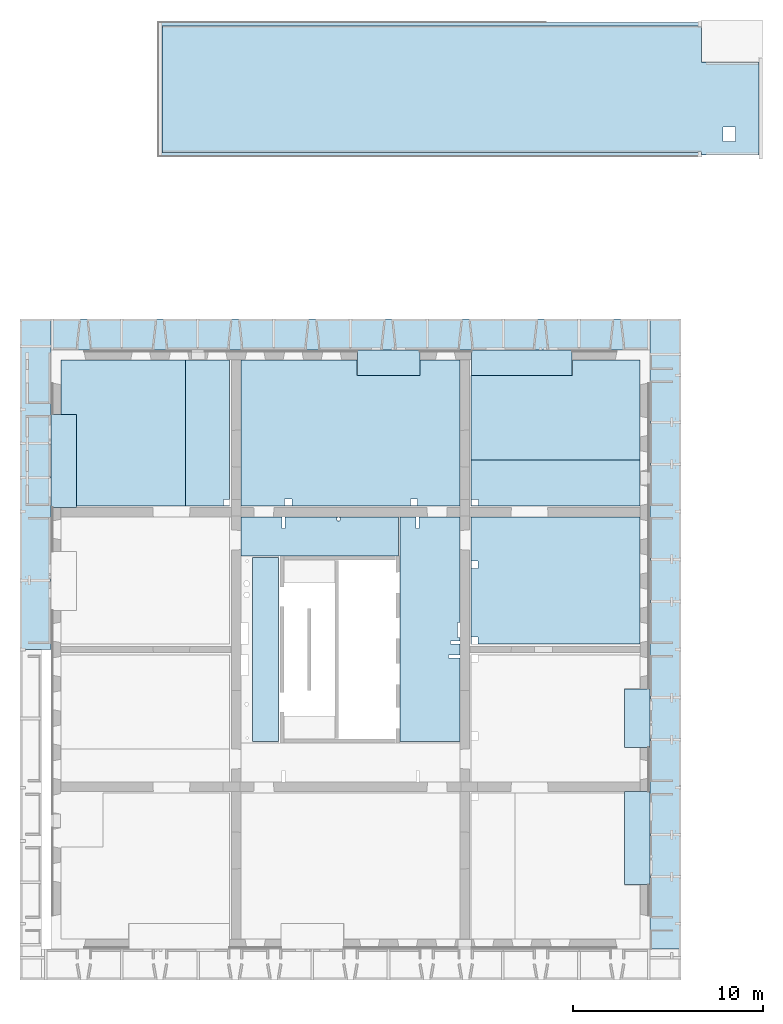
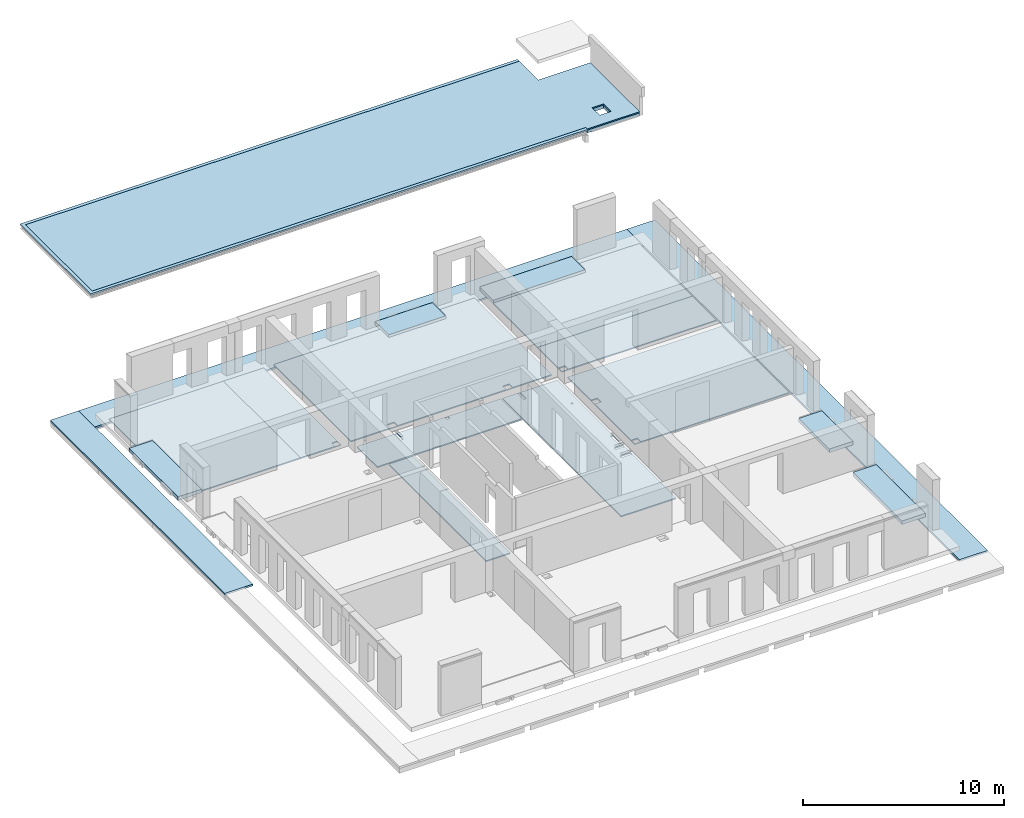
# One storey, part 20 of 27: 20 slabs, 51 openings.
"""IFC2X3 building model written with IfcOpenShell, lengths in millimetres."""

from ifc_helpers import new_model, entity, si_unit, converted_unit, derived_unit, direction, frame, frame_2d, origin, origin_2d_with_axis, place, context, subcontext, project, spatial, polyline, rectangle, circle, outline, extrude, material, layer, layer_set, layer_usage, element, save


model = new_model("IFC2X3")

# Units and contexts
model_context = context("Model", 3, precision=0.01, world=origin(), true_north=direction((6.12303176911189e-17, 1.0)))
body_context = subcontext(model_context, "Body", "Model", "MODEL_VIEW")
ifc_project = project(units=[si_unit("LENGTHUNIT", "METRE", prefix="MILLI"), si_unit("AREAUNIT", "SQUARE_METRE"), si_unit("VOLUMEUNIT", "CUBIC_METRE"), converted_unit("PLANEANGLEUNIT", "DEGREE", entity("IfcRatioMeasure", 0.0174532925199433), si_unit("PLANEANGLEUNIT", "RADIAN"), dimensions=[0, 0, 0, 0, 0, 0, 0]), si_unit("MASSUNIT", "GRAM", prefix="KILO"), derived_unit("MASSDENSITYUNIT", [(si_unit("MASSUNIT", "GRAM", prefix="KILO"), 1), (si_unit("LENGTHUNIT", "METRE"), -3)]), si_unit("TIMEUNIT", "SECOND"), si_unit("FREQUENCYUNIT", "HERTZ"), si_unit("THERMODYNAMICTEMPERATUREUNIT", "DEGREE_CELSIUS"), derived_unit("THERMALTRANSMITTANCEUNIT", [(si_unit("MASSUNIT", "GRAM", prefix="KILO"), 1), (si_unit("THERMODYNAMICTEMPERATUREUNIT", "KELVIN"), -1), (si_unit("TIMEUNIT", "SECOND"), -3)]), derived_unit("VOLUMETRICFLOWRATEUNIT", [(si_unit("LENGTHUNIT", "METRE"), 3), (si_unit("TIMEUNIT", "SECOND"), -1)]), si_unit("ELECTRICCURRENTUNIT", "AMPERE"), si_unit("ELECTRICVOLTAGEUNIT", "VOLT"), si_unit("POWERUNIT", "WATT"), si_unit("FORCEUNIT", "NEWTON", prefix="KILO"), si_unit("ILLUMINANCEUNIT", "LUX"), si_unit("LUMINOUSFLUXUNIT", "LUMEN"), si_unit("LUMINOUSINTENSITYUNIT", "CANDELA"), derived_unit("USERDEFINED", [(si_unit("MASSUNIT", "GRAM", prefix="KILO"), -1), (si_unit("LENGTHUNIT", "METRE"), -2), (si_unit("TIMEUNIT", "SECOND"), 3), (si_unit("LUMINOUSFLUXUNIT", "LUMEN"), 1)]), derived_unit("LINEARVELOCITYUNIT", [(si_unit("LENGTHUNIT", "METRE"), 1), (si_unit("TIMEUNIT", "SECOND"), -1)]), si_unit("PRESSUREUNIT", "PASCAL"), derived_unit("USERDEFINED", [(si_unit("LENGTHUNIT", "METRE"), -2), (si_unit("MASSUNIT", "GRAM", prefix="KILO"), 1), (si_unit("TIMEUNIT", "SECOND"), -2)])], contexts=[model_context])

# Site, building, storey
site_placement = place(None, origin())
site = spatial("IfcSite", under=ifc_project, at=site_placement, Name="Default", CompositionType="ELEMENT")
building_placement = place(site_placement, origin())
building = spatial("IfcBuilding", under=site, at=building_placement, Name="niet gebruiken", CompositionType="ELEMENT")
storey_placement = place(building_placement, frame((0.0, 0.0, 18000.0)))
storey = spatial("IfcBuildingStorey", under=building, at=storey_placement, Name="05 vijfde verdieping", CompositionType="ELEMENT", Elevation=18000.0)

# Slab, opening
ifc_material_1 = material(Name="NLRS_f2_beton ihwg")
ifc_layer_1 = layer(ifc_material_1, 70.0)
ifc_layer_set_1 = layer_set([ifc_layer_1], Name="Floor:NLRS_23.21_FL_druklaag d=70_gen")
ifc_layer_usage_1 = layer_usage(ifc_layer_set_1, "AXIS3", "POSITIVE", 0.0)
slab_1_placement = place(storey_placement, frame((131850.0, 43450.0, -1055.0)))
slab_1 = element("IfcSlab", 1, at=slab_1_placement, inside=storey, material=ifc_layer_usage_1, Name="Floor:NLRS_23.21_FL_druklaag d=70_gen", ObjectType="Floor:NLRS_23.21_FL_druklaag d=70_gen", PredefinedType="FLOOR", context=body_context, shape_type="SweptSolid", body=[
    extrude(outline(polyline([(-12670.0, -3237.49999999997), (15670.0, -3237.49999999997), (15670.0, 3387.49999999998), (-12670.0, 3387.49999999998), (-12670.0, 1512.50000000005), (-15670.0, 1512.50000000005), (-15670.0, -3387.49999999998), (-12670.0, -3387.49999999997), (-12670.0, -3237.49999999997)])), frame((15670.0, 3387.49999999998, 70.0), z_axis=(0.0, 0.0, -1.0), x_axis=(-1.0, 0.0, 0.0)), (0.0, 0.0, 1.0), 69.9999999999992),
])
opening_1_placement = place(slab_1_placement, origin())
element("IfcOpeningElement", 2, at=opening_1_placement, cuts=slab_1, ObjectType="Opening", context=body_context, shape_type="SweptSolid", body=[
    extrude(rectangle(XDim=750.000000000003, YDim=649.999999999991, at=origin_2d_with_axis()), frame((29790.0, 1100.0, -200.0), z_axis=(0.0, 0.0, 1.0), x_axis=(0.0, -1.0, 0.0)), (0.0, 0.0, 1.0), 269.999999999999),
])

ifc_material_2 = material(Name="NLRS_f2_beton prefab")
ifc_layer_2 = layer(ifc_material_2, 200.0)
ifc_layer_set_2 = layer_set([ifc_layer_2], Name="Floor:NLRS_23.21_FL_kanaalplaat d=200_gen")
ifc_layer_usage_2 = layer_usage(ifc_layer_set_2, "AXIS3", "POSITIVE", 0.0)
slab_2_placement = place(storey_placement, frame((131870.0, 43485.0, -1255.0)))
slab_2 = element("IfcSlab", 3, at=slab_2_placement, inside=storey, material=ifc_layer_usage_2, Name="Floor:NLRS_23.21_FL_kanaalplaat d=200_gen", ObjectType="Floor:NLRS_23.21_FL_kanaalplaat d=200_gen", PredefinedType="FLOOR", context=body_context, shape_type="SweptSolid", body=[
    extrude(outline(polyline([(-12660.0, -3225.0), (15660.0, -3225.0), (15660.0, 3360.0), (-12640.0, 3360.0), (-12640.0, 1470.0), (-15660.0, 1470.0), (-15660.0, -3360.0), (-12660.0, -3360.0), (-12660.0, -3225.0)])), frame((15660.0, 3360.0, 200.0), z_axis=(0.0, 0.0, -1.0), x_axis=(-1.0, 0.0, 0.0)), (0.0, 0.0, 1.0), 200.0),
])
opening_2_placement = place(slab_2_placement, origin())
element("IfcOpeningElement", 4, at=opening_2_placement, cuts=slab_2, ObjectType="Opening", context=body_context, shape_type="SweptSolid", body=[
    extrude(rectangle(XDim=750.000000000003, YDim=649.999999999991, at=origin_2d_with_axis()), frame((29770.0, 1065.0, 0.0), z_axis=(0.0, 0.0, 1.0), x_axis=(0.0, -1.0, 0.0)), (0.0, 0.0, 1.0), 269.999999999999),
])

# Slabs
ifc_layer_3 = layer(ifc_material_1, 220.0)
ifc_layer_set_3 = layer_set([ifc_layer_3], Name="Floor:NLRS_23.21_FL_beton ihwg d=220_gen")
ifc_layer_usage_3 = layer_usage(ifc_layer_set_3, "AXIS3", "POSITIVE", 0.0)
slab_3_placement = place(storey_placement, frame((126020.0, 1770.0, -360.0)))
element("IfcSlab", 5, at=slab_3_placement, inside=storey, material=ifc_layer_usage_3, Name="Floor:NLRS_23.21_FL_beton ihwg d=220_gen", ObjectType="Floor:NLRS_23.21_FL_beton ihwg d=220_gen", PredefinedType="FLOOR", context=body_context, shape_type="SweptSolid", body=[
    extrude(rectangle(XDim=4879.99999999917, YDim=1345.00000000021, at=frame_2d((15057.5000000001, 9900.0), x_axis=(0.0, 1.0))), frame((15730.0, 15730.0, 220.0), z_axis=(0.0, 0.0, -1.0), x_axis=(-1.0, 0.0, 0.0)), (0.0, 0.0, 1.0), 220.0),
])
slab_4_placement = place(storey_placement, frame((126020.0, 1770.0, -360.0)))
element("IfcSlab", 6, at=slab_4_placement, inside=storey, material=ifc_layer_usage_3, Name="Floor:NLRS_23.21_FL_beton ihwg d=220_gen:2", ObjectType="Floor:NLRS_23.21_FL_beton ihwg d=220_gen", PredefinedType="FLOOR", context=body_context, shape_type="SweptSolid", body=[
    extrude(rectangle(XDim=3280.0, YDim=1345.00000000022, at=frame_2d((-2000.0, 15057.5000000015), x_axis=(1.0, 0.0))), frame((15730.0, 15730.0, 220.0), z_axis=(0.0, 0.0, -1.0), x_axis=(-1.0, 0.0, 0.0)), (0.0, 0.0, 1.0), 220.0),
])
slab_5_placement = place(storey_placement, frame((126020.0, 1770.0, -360.0)))
element("IfcSlab", 7, at=slab_5_placement, inside=storey, material=ifc_layer_usage_3, Name="Floor:NLRS_23.21_FL_beton ihwg d=220_gen:3", ObjectType="Floor:NLRS_23.21_FL_beton ihwg d=220_gen", PredefinedType="FLOOR", context=body_context, shape_type="SweptSolid", body=[
    extrude(rectangle(XDim=4880.00000000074, YDim=1345.00000000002, at=frame_2d((-15057.5, -9900.0), x_axis=(0.0, -1.0))), frame((15730.0, 15730.0, 220.0), z_axis=(0.0, 0.0, -1.0), x_axis=(-1.0, 0.0, 0.0)), (0.0, 0.0, 1.0), 220.0),
])
slab_6_placement = place(storey_placement, frame((126020.0, 1770.0, -360.0)))
element("IfcSlab", 8, at=slab_6_placement, inside=storey, material=ifc_layer_usage_3, Name="Floor:NLRS_23.21_FL_beton ihwg d=220_gen:4", ObjectType="Floor:NLRS_23.21_FL_beton ihwg d=220_gen", PredefinedType="FLOOR", context=body_context, shape_type="SweptSolid", body=[
    extrude(rectangle(XDim=3080.0, YDim=1345.00000000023, at=frame_2d((-15057.5000000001, -3600.0), x_axis=(0.0, 1.0))), frame((15730.0, 15730.0, 220.0), z_axis=(0.0, 0.0, -1.0), x_axis=(-1.0, 0.0, 0.0)), (0.0, 0.0, 1.0), 220.0),
])
slab_7_placement = place(storey_placement, frame((126020.0, 1770.0, -360.0)))
element("IfcSlab", 9, at=slab_7_placement, inside=storey, material=ifc_layer_usage_3, Name="Floor:NLRS_23.21_FL_beton ihwg d=220_gen:8", ObjectType="Floor:NLRS_23.21_FL_beton ihwg d=220_gen", PredefinedType="FLOOR", context=body_context, shape_type="SweptSolid", body=[
    extrude(rectangle(XDim=5280.00000000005, YDim=1345.00000000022, at=frame_2d((-9000.0, 15057.5000000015), x_axis=(1.0, 0.0))), frame((15730.0, 15730.0, 220.0), z_axis=(0.0, 0.0, -1.0), x_axis=(-1.0, 0.0, 0.0)), (0.0, 0.0, 1.0), 220.0),
])
ifc_layer_4 = layer(ifc_material_1, 85.0)
ifc_layer_set_4 = layer_set([ifc_layer_4], Name="Floor:NLRS_23.21_FL_druklaag d=85_gen")
ifc_layer_usage_4 = layer_usage(ifc_layer_set_4, "AXIS3", "POSITIVE", 0.0)
slab_8_placement = place(storey_placement, origin())
element("IfcSlab", 10, at=slab_8_placement, inside=storey, material=ifc_layer_usage_4, Name="Floor:NLRS_23.21_FL_druklaag d=85_gen", ObjectType="Floor:NLRS_23.21_FL_druklaag d=85_gen", PredefinedType="FLOOR", context=body_context, shape_type="SweptSolid", body=[
    extrude(outline(polyline([(-3507.49999999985, -14316.2499999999), (3507.5000000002, -14316.2499999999), (3507.5000000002, 14218.7499999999), (3312.49999999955, 14218.7499999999), (3312.49999999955, -14121.2499999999), (-3312.4999999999, -14121.2499999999), (-3312.4999999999, 14218.7499999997), (-3507.49999999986, 14218.7499999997), (-3507.49999999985, -14316.2499999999)])), frame((145971.25, 46912.4999999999, -985.0), z_axis=(0.0, 0.0, -1.0), x_axis=(0.0, 1.0, 0.0)), (0.0, 0.0, 1.0), 85.0000000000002),
])

# Slab, openings
ifc_layer_5 = layer(ifc_material_2, 70.0)
ifc_layer_set_5 = layer_set([ifc_layer_5], Name="Floor:NLRS_23.21_FL_breedplaat d=70_gen")
ifc_layer_usage_5 = layer_usage(ifc_layer_set_5, "AXIS3", "POSITIVE", 0.0)
slab_9_placement = place(storey_placement, frame((133100.0, 25040.0, -360.0)))
slab_9 = element("IfcSlab", 11, at=slab_9_placement, inside=storey, material=ifc_layer_usage_5, Name="Floor:NLRS_23.21_FL_breedplaat d=70_gen", ObjectType="Floor:NLRS_23.21_FL_breedplaat d=70_gen", PredefinedType="FLOOR", context=body_context, shape_type="SweptSolid", body=[
    extrude(rectangle(XDim=7670.00000000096, YDim=2309.99999999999, at=frame_2d((10775.0, 0.0), x_axis=(0.0, 1.0))), frame((11930.0, 3835.0, 70.0), z_axis=(0.0, 0.0, -1.0), x_axis=(-1.0, 0.0, 0.0)), (0.0, 0.0, 1.0), 69.9999999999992),
])
placement_1 = place(slab_9_placement, origin())
element("IfcOpeningElement", 12, at=placement_1, cuts=slab_9, ObjectType="Opening", context=body_context, shape_type="SweptSolid", body=[
    extrude(rectangle(XDim=399.999999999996, YDim=340.000000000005, at=origin_2d_with_axis()), frame((5375.0, 180.0, 0.0), z_axis=(0.0, 0.0, 1.0), x_axis=(-1.0, 0.0, 0.0)), (0.0, 0.0, 1.0), 269.999999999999),
])
placement_2 = place(slab_9_placement, origin())
element("IfcOpeningElement", 13, at=placement_2, cuts=slab_9, ObjectType="Opening", context=body_context, shape_type="SweptSolid", body=[
    extrude(rectangle(XDim=309.999999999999, YDim=320.000000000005, at=origin_2d_with_axis()), frame((2145.0, 170.0, 0.0), z_axis=(0.0, 0.0, 1.0), x_axis=(-1.0, 0.0, 0.0)), (0.0, 0.0, 1.0), 269.999999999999),
])
placement_3 = place(slab_9_placement, origin())
element("IfcOpeningElement", 14, at=placement_3, cuts=slab_9, ObjectType="Opening", context=body_context, shape_type="SweptSolid", body=[
    extrude(rectangle(XDim=370.000000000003, YDim=340.000000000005, at=origin_2d_with_axis()), frame((11990.0, 180.0, 0.0), z_axis=(0.0, 0.0, 1.0), x_axis=(-1.0, 0.0, 0.0)), (0.0, 0.0, 1.0), 269.999999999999),
])

slab_10_placement = place(storey_placement, frame((133100.0, 25040.0, -360.0)))
slab_10 = element("IfcSlab", 15, at=slab_10_placement, inside=storey, material=ifc_layer_usage_5, Name="Floor:NLRS_23.21_FL_breedplaat d=70_gen:2", ObjectType="Floor:NLRS_23.21_FL_breedplaat d=70_gen", PredefinedType="FLOOR", context=body_context, shape_type="SweptSolid", body=[
    extrude(outline(polyline([(-8370.0, 3835.0), (-11930.0, 3835.0), (-11930.0, -1435.0), (-3060.0, -1435.0), (-3060.0, 3000.0), (-8370.0, 3000.0), (-8370.0, 3835.0)])), frame((11930.0, 3835.0, 70.0), z_axis=(0.0, 0.0, -1.0), x_axis=(-1.0, 0.0, 0.0)), (0.0, 0.0, 1.0), 69.9999999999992),
])
element("IfcOpeningElement", 16, at=placement_1, cuts=slab_10, ObjectType="Opening", context=body_context, shape_type="SweptSolid", body=[
    extrude(rectangle(XDim=399.999999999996, YDim=340.000000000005, at=origin_2d_with_axis()), frame((5375.0, 180.0, 0.0), z_axis=(0.0, 0.0, 1.0), x_axis=(-1.0, 0.0, 0.0)), (0.0, 0.0, 1.0), 269.999999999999),
])
element("IfcOpeningElement", 17, at=placement_2, cuts=slab_10, ObjectType="Opening", context=body_context, shape_type="SweptSolid", body=[
    extrude(rectangle(XDim=309.999999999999, YDim=320.000000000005, at=origin_2d_with_axis()), frame((2145.0, 170.0, 0.0), z_axis=(0.0, 0.0, 1.0), x_axis=(-1.0, 0.0, 0.0)), (0.0, 0.0, 1.0), 269.999999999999),
])
element("IfcOpeningElement", 18, at=placement_3, cuts=slab_10, ObjectType="Opening", context=body_context, shape_type="SweptSolid", body=[
    extrude(rectangle(XDim=370.000000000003, YDim=340.000000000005, at=origin_2d_with_axis()), frame((11990.0, 180.0, 0.0), z_axis=(0.0, 0.0, 1.0), x_axis=(-1.0, 0.0, 0.0)), (0.0, 0.0, 1.0), 269.999999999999),
])

slab_11_placement = place(storey_placement, frame((133100.0, 25040.0, -360.0)))
slab_11 = element("IfcSlab", 19, at=slab_11_placement, inside=storey, material=ifc_layer_usage_5, Name="Floor:NLRS_23.21_FL_breedplaat d=70_gen:3", ObjectType="Floor:NLRS_23.21_FL_breedplaat d=70_gen", PredefinedType="FLOOR", context=body_context, shape_type="SweptSolid", body=[
    extrude(outline(polyline([(-2480.0, -3835.0), (9040.0, -3835.0), (9040.0, 3835.0), (2930.0, 3835.0), (2930.0, 3000.0), (-370.0, 3000.0), (-370.0, 3835.0), (-2480.0, 3835.0), (-2480.0, -3835.0)])), frame((11930.0, 3835.0, 70.0), z_axis=(0.0, 0.0, -1.0), x_axis=(-1.0, 0.0, 0.0)), (0.0, 0.0, 1.0), 69.9999999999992),
])
element("IfcOpeningElement", 20, at=placement_1, cuts=slab_11, ObjectType="Opening", context=body_context, shape_type="SweptSolid", body=[
    extrude(rectangle(XDim=399.999999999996, YDim=340.000000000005, at=origin_2d_with_axis()), frame((5375.0, 180.0, 0.0), z_axis=(0.0, 0.0, 1.0), x_axis=(-1.0, 0.0, 0.0)), (0.0, 0.0, 1.0), 269.999999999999),
])
element("IfcOpeningElement", 21, at=placement_2, cuts=slab_11, ObjectType="Opening", context=body_context, shape_type="SweptSolid", body=[
    extrude(rectangle(XDim=309.999999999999, YDim=320.000000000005, at=origin_2d_with_axis()), frame((2145.0, 170.0, 0.0), z_axis=(0.0, 0.0, 1.0), x_axis=(-1.0, 0.0, 0.0)), (0.0, 0.0, 1.0), 269.999999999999),
])
element("IfcOpeningElement", 22, at=placement_3, cuts=slab_11, ObjectType="Opening", context=body_context, shape_type="SweptSolid", body=[
    extrude(rectangle(XDim=370.000000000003, YDim=340.000000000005, at=origin_2d_with_axis()), frame((11990.0, 180.0, 0.0), z_axis=(0.0, 0.0, 1.0), x_axis=(-1.0, 0.0, 0.0)), (0.0, 0.0, 1.0), 269.999999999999),
])

ifc_layer_usage_6 = layer_usage(ifc_layer_set_5, "AXIS3", "POSITIVE", 0.0)
slab_12_placement = place(storey_placement, frame((148090.0, 2290.0, -360.0)))
slab_12 = element("IfcSlab", 23, at=slab_12_placement, inside=storey, material=ifc_layer_usage_6, Name="Floor:NLRS_23.21_FL_breedplaat d=70_gen", ObjectType="Floor:NLRS_23.21_FL_breedplaat d=70_gen", PredefinedType="FLOOR", context=body_context, shape_type="SweptSolid", body=[
    extrude(rectangle(XDim=8869.99999999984, YDim=2400.0000000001, at=frame_2d((0.0, 11375.0), x_axis=(-1.0, 0.0))), frame((4435.0, 12575.0, 70.0), z_axis=(0.0, 0.0, -1.0), x_axis=(-1.0, 0.0, 0.0)), (0.0, 0.0, 1.0), 69.9999999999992),
])
placement_4 = place(slab_12_placement, origin())
element("IfcOpeningElement", 24, at=placement_4, cuts=slab_12, ObjectType="Opening", context=body_context, shape_type="SweptSolid", body=[
    extrude(rectangle(XDim=430.000000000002, YDim=350.000000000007, at=origin_2d_with_axis()), frame((185.0, 10660.0, 0.0), z_axis=(0.0, 0.0, 1.0), x_axis=(0.0, -1.0, 0.0)), (0.0, 0.0, 1.0), 269.999999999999),
])
placement_5 = place(slab_12_placement, origin())
element("IfcOpeningElement", 25, at=placement_5, cuts=slab_12, ObjectType="Opening", context=body_context, shape_type="SweptSolid", body=[
    extrude(rectangle(XDim=350.000000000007, YDim=350.000000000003, at=origin_2d_with_axis()), frame((185.0, 14735.0, 0.0), z_axis=(0.0, 0.0, 1.0), x_axis=(-1.0, 0.0, 0.0)), (0.0, 0.0, 1.0), 269.999999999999),
])
placement_6 = place(slab_12_placement, origin())
element("IfcOpeningElement", 26, at=placement_6, cuts=slab_12, ObjectType="Opening", context=body_context, shape_type="SweptSolid", body=[
    extrude(rectangle(XDim=350.000000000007, YDim=350.000000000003, at=origin_2d_with_axis()), frame((185.0, 15685.0, 0.0), z_axis=(0.0, 0.0, 1.0), x_axis=(-1.0, 0.0, 0.0)), (0.0, 0.0, 1.0), 269.999999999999),
])
placement_7 = place(slab_12_placement, origin())
element("IfcOpeningElement", 27, at=placement_7, cuts=slab_12, ObjectType="Opening", context=body_context, shape_type="SweptSolid", body=[
    extrude(rectangle(XDim=380.0, YDim=350.000000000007, at=origin_2d_with_axis()), frame((185.0, 19665.0, 0.0), z_axis=(0.0, 0.0, 1.0), x_axis=(0.0, 1.0, 0.0)), (0.0, 0.0, 1.0), 269.999999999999),
])
placement_8 = place(slab_12_placement, origin())
element("IfcOpeningElement", 28, at=placement_8, cuts=slab_12, ObjectType="Opening", context=body_context, shape_type="SweptSolid", body=[
    extrude(rectangle(XDim=360.000000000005, YDim=320.000000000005, at=origin_2d_with_axis()), frame((190.0, 22920.0, 0.0), z_axis=(0.0, 0.0, 1.0), x_axis=(-1.0, 0.0, 0.0)), (0.0, 0.0, 1.0), 269.999999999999),
])

slab_13_placement = place(storey_placement, frame((148090.0, 2290.0, -360.0)))
slab_13 = element("IfcSlab", 29, at=slab_13_placement, inside=storey, material=ifc_layer_usage_6, Name="Floor:NLRS_23.21_FL_breedplaat d=70_gen:4", ObjectType="Floor:NLRS_23.21_FL_breedplaat d=70_gen", PredefinedType="FLOOR", context=body_context, shape_type="SweptSolid", body=[
    extrude(rectangle(XDim=8869.99999999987, YDim=6669.99999999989, at=frame_2d((0.0, 6260.0), x_axis=(1.0, 0.0))), frame((4435.0, 12575.0, 70.0), z_axis=(0.0, 0.0, -1.0), x_axis=(-1.0, 0.0, 0.0)), (0.0, 0.0, 1.0), 69.9999999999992),
])
element("IfcOpeningElement", 30, at=placement_4, cuts=slab_13, ObjectType="Opening", context=body_context, shape_type="SweptSolid", body=[
    extrude(rectangle(XDim=430.000000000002, YDim=350.000000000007, at=origin_2d_with_axis()), frame((185.0, 10660.0, 0.0), z_axis=(0.0, 0.0, 1.0), x_axis=(0.0, -1.0, 0.0)), (0.0, 0.0, 1.0), 269.999999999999),
])
element("IfcOpeningElement", 31, at=placement_5, cuts=slab_13, ObjectType="Opening", context=body_context, shape_type="SweptSolid", body=[
    extrude(rectangle(XDim=350.000000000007, YDim=350.000000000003, at=origin_2d_with_axis()), frame((185.0, 14735.0, 0.0), z_axis=(0.0, 0.0, 1.0), x_axis=(-1.0, 0.0, 0.0)), (0.0, 0.0, 1.0), 269.999999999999),
])
element("IfcOpeningElement", 32, at=placement_6, cuts=slab_13, ObjectType="Opening", context=body_context, shape_type="SweptSolid", body=[
    extrude(rectangle(XDim=350.000000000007, YDim=350.000000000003, at=origin_2d_with_axis()), frame((185.0, 15685.0, 0.0), z_axis=(0.0, 0.0, 1.0), x_axis=(-1.0, 0.0, 0.0)), (0.0, 0.0, 1.0), 269.999999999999),
])
element("IfcOpeningElement", 33, at=placement_7, cuts=slab_13, ObjectType="Opening", context=body_context, shape_type="SweptSolid", body=[
    extrude(rectangle(XDim=380.0, YDim=350.000000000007, at=origin_2d_with_axis()), frame((185.0, 19665.0, 0.0), z_axis=(0.0, 0.0, 1.0), x_axis=(0.0, 1.0, 0.0)), (0.0, 0.0, 1.0), 269.999999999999),
])
element("IfcOpeningElement", 34, at=placement_8, cuts=slab_13, ObjectType="Opening", context=body_context, shape_type="SweptSolid", body=[
    extrude(rectangle(XDim=360.000000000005, YDim=320.000000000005, at=origin_2d_with_axis()), frame((190.0, 22920.0, 0.0), z_axis=(0.0, 0.0, 1.0), x_axis=(-1.0, 0.0, 0.0)), (0.0, 0.0, 1.0), 269.999999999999),
])

# Slab
ifc_layer_usage_7 = layer_usage(ifc_layer_set_5, "AXIS3", "POSITIVE", 0.0)
slab_14_placement = place(storey_placement, frame((126540.0, 12266.0, -360.0)))
element("IfcSlab", 35, at=slab_14_placement, inside=storey, material=ifc_layer_usage_7, Name="Floor:NLRS_23.21_FL_breedplaat d=70_gen", ObjectType="Floor:NLRS_23.21_FL_breedplaat d=70_gen", PredefinedType="FLOOR", context=body_context, shape_type="SweptSolid", body=[
    extrude(outline(polyline([(4435.0, 7362.0), (4435.0, 10222.0), (-2125.0, 10222.0), (-2125.0, 2552.0), (3600.0, 2552.0), (3600.0, 7362.0), (4435.0, 7362.0)])), frame((4435.0, 10222.0, 70.0), z_axis=(0.0, 0.0, -1.0), x_axis=(-1.0, 0.0, 0.0)), (0.0, 0.0, 1.0), 69.9999999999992),
])

# Slab, openings
ifc_layer_usage_8 = layer_usage(ifc_layer_set_5, "AXIS3", "POSITIVE", 0.0)
slab_15_placement = place(storey_placement, frame((135990.0, 10540.0, -330.0)))
slab_15 = element("IfcSlab", 36, at=slab_15_placement, inside=storey, material=ifc_layer_usage_8, Name="Floor:NLRS_23.21_FL_breedplaat d=70_gen", ObjectType="Floor:NLRS_23.21_FL_breedplaat d=70_gen", PredefinedType="FLOOR", context=body_context, shape_type="SweptSolid", body=[
    extrude(rectangle(XDim=9680.00000000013, YDim=1379.99999999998, at=frame_2d((4460.0, 0.0), x_axis=(0.0, 1.0))), frame((5760.0, 6960.0, 70.0), z_axis=(0.0, 0.0, -1.0), x_axis=(-1.0, 0.0, 0.0)), (0.0, 0.0, 1.0), 69.9999999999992),
])
placement_9 = place(slab_15_placement, origin())
element("IfcOpeningElement", 37, at=placement_9, cuts=slab_15, ObjectType="Opening", context=body_context, shape_type="SweptSolid", body=[
    extrude(rectangle(XDim=800.000000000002, YDim=140.000000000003, at=origin_2d_with_axis()), frame((11440.0, 7985.0, 0.0), z_axis=(0.0, 0.0, 1.0), x_axis=(0.0, -1.0, 0.0)), (0.0, 0.0, 1.0), 240.0),
])
placement_10 = place(slab_15_placement, origin())
element("IfcOpeningElement", 38, at=placement_10, cuts=slab_15, ObjectType="Opening", context=body_context, shape_type="SweptSolid", body=[
    extrude(rectangle(XDim=1100.0, YDim=400.000000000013, at=origin_2d_with_axis()), frame((210.0, 7810.0, 0.0), z_axis=(0.0, 0.0, 1.0), x_axis=(0.0, -1.0, 0.0)), (0.0, 0.0, 1.0), 240.0),
])
placement_11 = place(slab_15_placement, origin())
element("IfcOpeningElement", 39, at=placement_11, cuts=slab_15, ObjectType="Opening", context=body_context, shape_type="SweptSolid", body=[
    extrude(rectangle(XDim=1060.0, YDim=400.000000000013, at=origin_2d_with_axis()), frame((210.0, 6130.0, 0.0), z_axis=(0.0, 0.0, 1.0), x_axis=(0.0, -1.0, 0.0)), (0.0, 0.0, 1.0), 240.0),
])
placement_12 = place(slab_15_placement, origin())
element("IfcOpeningElement", 40, at=placement_12, cuts=slab_15, ObjectType="Opening", context=body_context, shape_type="SweptSolid", body=[
    extrude(rectangle(XDim=150.000000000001, YDim=590.000000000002, at=origin_2d_with_axis()), frame((2235.0, 305.0, 0.0)), (0.0, 0.0, 1.0), 240.0),
])
placement_13 = place(slab_15_placement, origin())
element("IfcOpeningElement", 41, at=placement_13, cuts=slab_15, ObjectType="Opening", context=body_context, shape_type="SweptSolid", body=[
    extrude(rectangle(XDim=145.000000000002, YDim=595.000000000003, at=origin_2d_with_axis()), frame((9287.50000000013, 307.499999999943, 0.0)), (0.0, 0.0, 1.0), 240.0),
])
placement_14 = place(slab_15_placement, origin())
element("IfcOpeningElement", 42, at=placement_14, cuts=slab_15, ObjectType="Opening", context=body_context, shape_type="SweptSolid", body=[
    extrude(rectangle(XDim=600.000000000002, YDim=155.000000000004, at=origin_2d_with_axis()), frame((11210.0, 6582.49999999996, 0.0)), (0.0, 0.0, 1.0), 240.0),
])
placement_15 = place(slab_15_placement, origin())
element("IfcOpeningElement", 43, at=placement_15, cuts=slab_15, ObjectType="Opening", context=body_context, shape_type="SweptSolid", body=[
    extrude(rectangle(XDim=490.00000000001, YDim=150.000000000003, at=origin_2d_with_axis()), frame((11265.0, 7335.0, 0.0)), (0.0, 0.0, 1.0), 240.0),
])
placement_16 = place(slab_15_placement, origin())
element("IfcOpeningElement", 44, at=placement_16, cuts=slab_15, ObjectType="Opening", context=body_context, shape_type="SweptSolid", body=[
    extrude(rectangle(XDim=150.000000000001, YDim=600.000000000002, at=origin_2d_with_axis()), frame((9285.02189507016, 13610.0, 0.0)), (0.0, 0.0, 1.0), 240.0),
])
placement_17 = place(slab_15_placement, origin())
element("IfcOpeningElement", 45, at=placement_17, cuts=slab_15, ObjectType="Opening", context=body_context, shape_type="SweptSolid", body=[
    extrude(circle(Radius=100.0, at=origin_2d_with_axis()), frame((5134.86122070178, 13809.9503906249, 0.0), z_axis=(0.0, 0.0, 1.0), x_axis=(-1.0, 0.0, 0.0)), (0.0, 0.0, 1.0), 240.0),
])
placement_18 = place(slab_15_placement, origin())
element("IfcOpeningElement", 46, at=placement_18, cuts=slab_15, ObjectType="Opening", context=body_context, shape_type="SweptSolid", body=[
    extrude(rectangle(XDim=150.000000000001, YDim=600.000000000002, at=origin_2d_with_axis()), frame((2235.0, 13609.9995381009, 0.0)), (0.0, 0.0, 1.0), 240.0),
])

slab_16_placement = place(storey_placement, frame((135990.0, 10540.0, -330.0)))
slab_16 = element("IfcSlab", 47, at=slab_16_placement, inside=storey, material=ifc_layer_usage_8, Name="Floor:NLRS_23.21_FL_breedplaat d=70_gen:3", ObjectType="Floor:NLRS_23.21_FL_breedplaat d=70_gen", PredefinedType="FLOOR", context=body_context, shape_type="SweptSolid", body=[
    extrude(rectangle(XDim=11800.0, YDim=3160.00000000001, at=frame_2d((-4180.0, 1060.0), x_axis=(0.0, -1.0))), frame((5760.0, 6960.0, 70.0), z_axis=(0.0, 0.0, -1.0), x_axis=(-1.0, 0.0, 0.0)), (0.0, 0.0, 1.0), 69.9999999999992),
])
element("IfcOpeningElement", 48, at=placement_9, cuts=slab_16, ObjectType="Opening", context=body_context, shape_type="SweptSolid", body=[
    extrude(rectangle(XDim=800.000000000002, YDim=140.000000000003, at=origin_2d_with_axis()), frame((11440.0, 7985.0, 0.0), z_axis=(0.0, 0.0, 1.0), x_axis=(0.0, -1.0, 0.0)), (0.0, 0.0, 1.0), 240.0),
])
element("IfcOpeningElement", 49, at=placement_10, cuts=slab_16, ObjectType="Opening", context=body_context, shape_type="SweptSolid", body=[
    extrude(rectangle(XDim=1100.0, YDim=400.000000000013, at=origin_2d_with_axis()), frame((210.0, 7810.0, 0.0), z_axis=(0.0, 0.0, 1.0), x_axis=(0.0, -1.0, 0.0)), (0.0, 0.0, 1.0), 240.0),
])
element("IfcOpeningElement", 50, at=placement_11, cuts=slab_16, ObjectType="Opening", context=body_context, shape_type="SweptSolid", body=[
    extrude(rectangle(XDim=1060.0, YDim=400.000000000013, at=origin_2d_with_axis()), frame((210.0, 6130.0, 0.0), z_axis=(0.0, 0.0, 1.0), x_axis=(0.0, -1.0, 0.0)), (0.0, 0.0, 1.0), 240.0),
])
element("IfcOpeningElement", 51, at=placement_12, cuts=slab_16, ObjectType="Opening", context=body_context, shape_type="SweptSolid", body=[
    extrude(rectangle(XDim=150.000000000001, YDim=590.000000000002, at=origin_2d_with_axis()), frame((2235.0, 305.0, 0.0)), (0.0, 0.0, 1.0), 240.0),
])
element("IfcOpeningElement", 52, at=placement_13, cuts=slab_16, ObjectType="Opening", context=body_context, shape_type="SweptSolid", body=[
    extrude(rectangle(XDim=145.000000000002, YDim=595.000000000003, at=origin_2d_with_axis()), frame((9287.50000000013, 307.499999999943, 0.0)), (0.0, 0.0, 1.0), 240.0),
])
element("IfcOpeningElement", 53, at=placement_14, cuts=slab_16, ObjectType="Opening", context=body_context, shape_type="SweptSolid", body=[
    extrude(rectangle(XDim=600.000000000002, YDim=155.000000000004, at=origin_2d_with_axis()), frame((11210.0, 6582.49999999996, 0.0)), (0.0, 0.0, 1.0), 240.0),
])
element("IfcOpeningElement", 54, at=placement_15, cuts=slab_16, ObjectType="Opening", context=body_context, shape_type="SweptSolid", body=[
    extrude(rectangle(XDim=490.00000000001, YDim=150.000000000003, at=origin_2d_with_axis()), frame((11265.0, 7335.0, 0.0)), (0.0, 0.0, 1.0), 240.0),
])
element("IfcOpeningElement", 55, at=placement_16, cuts=slab_16, ObjectType="Opening", context=body_context, shape_type="SweptSolid", body=[
    extrude(rectangle(XDim=150.000000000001, YDim=600.000000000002, at=origin_2d_with_axis()), frame((9285.02189507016, 13610.0, 0.0)), (0.0, 0.0, 1.0), 240.0),
])
element("IfcOpeningElement", 56, at=placement_17, cuts=slab_16, ObjectType="Opening", context=body_context, shape_type="SweptSolid", body=[
    extrude(circle(Radius=100.0, at=origin_2d_with_axis()), frame((5134.86122070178, 13809.9503906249, 0.0), z_axis=(0.0, 0.0, 1.0), x_axis=(-1.0, 0.0, 0.0)), (0.0, 0.0, 1.0), 240.0),
])
element("IfcOpeningElement", 57, at=placement_18, cuts=slab_16, ObjectType="Opening", context=body_context, shape_type="SweptSolid", body=[
    extrude(rectangle(XDim=150.000000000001, YDim=600.000000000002, at=origin_2d_with_axis()), frame((2235.0, 13609.9995381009, 0.0)), (0.0, 0.0, 1.0), 240.0),
])

slab_17_placement = place(storey_placement, frame((135990.0, 10540.0, -330.0)))
slab_17 = element("IfcSlab", 58, at=slab_17_placement, inside=storey, material=ifc_layer_usage_8, Name="Floor:NLRS_23.21_FL_breedplaat d=70_gen:4", ObjectType="Floor:NLRS_23.21_FL_breedplaat d=70_gen", PredefinedType="FLOOR", context=body_context, shape_type="SweptSolid", body=[
    extrude(rectangle(XDim=8279.99999999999, YDim=2039.99999999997, at=frame_2d((1620.0, 5940.0), x_axis=(-1.0, 0.0))), frame((5760.0, 6960.0, 70.0), z_axis=(0.0, 0.0, -1.0), x_axis=(-1.0, 0.0, 0.0)), (0.0, 0.0, 1.0), 69.9999999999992),
])
element("IfcOpeningElement", 59, at=placement_9, cuts=slab_17, ObjectType="Opening", context=body_context, shape_type="SweptSolid", body=[
    extrude(rectangle(XDim=800.000000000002, YDim=140.000000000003, at=origin_2d_with_axis()), frame((11440.0, 7985.0, 0.0), z_axis=(0.0, 0.0, 1.0), x_axis=(0.0, -1.0, 0.0)), (0.0, 0.0, 1.0), 240.0),
])
element("IfcOpeningElement", 60, at=placement_10, cuts=slab_17, ObjectType="Opening", context=body_context, shape_type="SweptSolid", body=[
    extrude(rectangle(XDim=1100.0, YDim=400.000000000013, at=origin_2d_with_axis()), frame((210.0, 7810.0, 0.0), z_axis=(0.0, 0.0, 1.0), x_axis=(0.0, -1.0, 0.0)), (0.0, 0.0, 1.0), 240.0),
])
element("IfcOpeningElement", 61, at=placement_11, cuts=slab_17, ObjectType="Opening", context=body_context, shape_type="SweptSolid", body=[
    extrude(rectangle(XDim=1060.0, YDim=400.000000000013, at=origin_2d_with_axis()), frame((210.0, 6130.0, 0.0), z_axis=(0.0, 0.0, 1.0), x_axis=(0.0, -1.0, 0.0)), (0.0, 0.0, 1.0), 240.0),
])
element("IfcOpeningElement", 62, at=placement_12, cuts=slab_17, ObjectType="Opening", context=body_context, shape_type="SweptSolid", body=[
    extrude(rectangle(XDim=150.000000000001, YDim=590.000000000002, at=origin_2d_with_axis()), frame((2235.0, 305.0, 0.0)), (0.0, 0.0, 1.0), 240.0),
])
element("IfcOpeningElement", 63, at=placement_13, cuts=slab_17, ObjectType="Opening", context=body_context, shape_type="SweptSolid", body=[
    extrude(rectangle(XDim=145.000000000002, YDim=595.000000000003, at=origin_2d_with_axis()), frame((9287.50000000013, 307.499999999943, 0.0)), (0.0, 0.0, 1.0), 240.0),
])
element("IfcOpeningElement", 64, at=placement_14, cuts=slab_17, ObjectType="Opening", context=body_context, shape_type="SweptSolid", body=[
    extrude(rectangle(XDim=600.000000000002, YDim=155.000000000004, at=origin_2d_with_axis()), frame((11210.0, 6582.49999999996, 0.0)), (0.0, 0.0, 1.0), 240.0),
])
element("IfcOpeningElement", 65, at=placement_15, cuts=slab_17, ObjectType="Opening", context=body_context, shape_type="SweptSolid", body=[
    extrude(rectangle(XDim=490.00000000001, YDim=150.000000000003, at=origin_2d_with_axis()), frame((11265.0, 7335.0, 0.0)), (0.0, 0.0, 1.0), 240.0),
])
element("IfcOpeningElement", 66, at=placement_16, cuts=slab_17, ObjectType="Opening", context=body_context, shape_type="SweptSolid", body=[
    extrude(rectangle(XDim=150.000000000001, YDim=600.000000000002, at=origin_2d_with_axis()), frame((9285.02189507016, 13610.0, 0.0)), (0.0, 0.0, 1.0), 240.0),
])
element("IfcOpeningElement", 67, at=placement_17, cuts=slab_17, ObjectType="Opening", context=body_context, shape_type="SweptSolid", body=[
    extrude(circle(Radius=100.0, at=origin_2d_with_axis()), frame((5134.86122070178, 13809.9503906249, 0.0), z_axis=(0.0, 0.0, 1.0), x_axis=(-1.0, 0.0, 0.0)), (0.0, 0.0, 1.0), 240.0),
])
element("IfcOpeningElement", 68, at=placement_18, cuts=slab_17, ObjectType="Opening", context=body_context, shape_type="SweptSolid", body=[
    extrude(rectangle(XDim=150.000000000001, YDim=600.000000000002, at=origin_2d_with_axis()), frame((2235.0, 13609.9995381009, 0.0)), (0.0, 0.0, 1.0), 240.0),
])

# Slabs
ifc_material_3 = material(Name="NLRS_h2_staal")
ifc_layer_6 = layer(ifc_material_3, 110.0)
ifc_layer_set_6 = layer_set([ifc_layer_6], Name="Floor:NLRS_27.21_FL_geprofileerde staalplaat d=110_gen")
ifc_layer_usage_9 = layer_usage(ifc_layer_set_6, "AXIS3", "POSITIVE", 0.0)
slab_18_placement = place(storey_placement, origin())
element("IfcSlab", 69, at=slab_18_placement, inside=storey, material=ifc_layer_usage_9, Name="Floor:NLRS_27.21_FL_geprofileerde staalplaat d=110_gen", ObjectType="Floor:NLRS_27.21_FL_geprofileerde staalplaat d=110_gen", PredefinedType="ROOF", context=body_context, shape_type="SweptSolid", body=[
    extrude(rectangle(XDim=1620.00000000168, YDim=31460.0000000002, at=frame_2d((1.08570930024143e-11, 0.0), x_axis=(1.0, 0.0))), frame((141750.0, 34040.0, -905.0), z_axis=(0.0, 0.0, -1.0), x_axis=(0.0, 1.0, 0.0)), (0.0, 0.0, 1.0), 110.000000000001),
])
ifc_layer_usage_10 = layer_usage(ifc_layer_set_6, "AXIS3", "POSITIVE", 0.0)
slab_19_placement = place(storey_placement, origin())
element("IfcSlab", 70, at=slab_19_placement, inside=storey, material=ifc_layer_usage_10, Name="Floor:NLRS_27.21_FL_geprofileerde staalplaat d=110_gen", ObjectType="Floor:NLRS_27.21_FL_geprofileerde staalplaat d=110_gen", PredefinedType="ROOF", context=body_context, shape_type="SweptSolid", body=[
    extrude(rectangle(XDim=33080.0000000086, YDim=1619.99999999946, at=frame_2d((-1.42972567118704e-09, 1.03966613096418e-10), x_axis=(1.0, 0.0))), frame((158290.0, 18310.0, -905.0), z_axis=(0.0, 0.0, -1.0), x_axis=(0.0, 1.0, 0.0)), (0.0, 0.0, 1.0), 110.000000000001),
])
ifc_layer_usage_11 = layer_usage(ifc_layer_set_6, "AXIS3", "POSITIVE", 0.0)
slab_20_placement = place(storey_placement, origin())
element("IfcSlab", 71, at=slab_20_placement, inside=storey, material=ifc_layer_usage_11, Name="Floor:NLRS_27.21_FL_geprofileerde staalplaat d=110_gen", ObjectType="Floor:NLRS_27.21_FL_geprofileerde staalplaat d=110_gen", PredefinedType="ROOF", context=body_context, shape_type="SweptSolid", body=[
    extrude(rectangle(XDim=17350.0000000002, YDim=1620.00000000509, at=frame_2d((0.0, -1.03966613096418e-10), x_axis=(1.0, 0.0))), frame((125210.0, 26175.0, -905.0), z_axis=(0.0, 0.0, -1.0), x_axis=(0.0, 1.0, 0.0)), (0.0, 0.0, 1.0), 110.000000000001),
])

save(model, "model.ifc")
